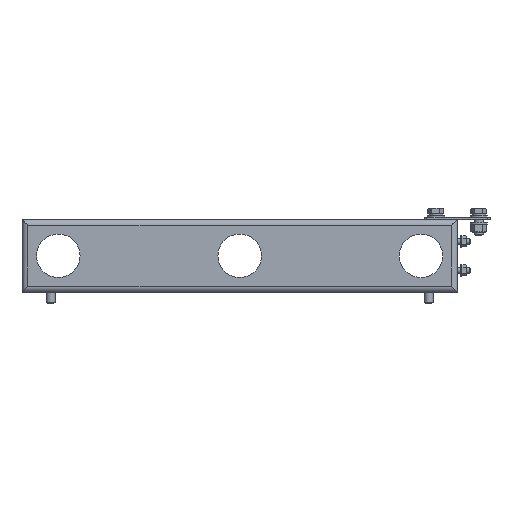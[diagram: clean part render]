
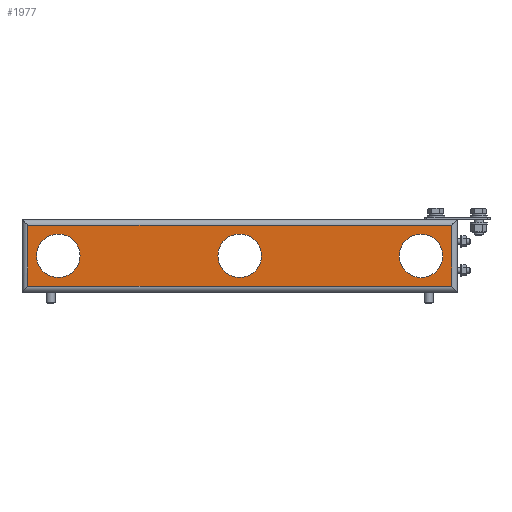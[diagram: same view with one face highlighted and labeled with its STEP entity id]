
A CAD part, left-side view. The second image highlights one B-rep face of the part: STEP entity #1977.
In plain terms, the highlighted planar face has unit normal (-1, 0, 0).
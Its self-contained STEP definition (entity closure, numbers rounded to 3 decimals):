
#1977=ADVANCED_FACE('',(#2300,#2302,#2304,#2306),#2308,.T.);
#2300=FACE_BOUND('',#2301,.T.);
#2301=EDGE_LOOP('',(#5654,#5655,#5656,#5657));
#2302=FACE_BOUND('',#2303,.T.);
#2303=EDGE_LOOP('',(#5658));
#2304=FACE_BOUND('',#2305,.T.);
#2305=EDGE_LOOP('',(#5659));
#2306=FACE_BOUND('',#2307,.T.);
#2307=EDGE_LOOP('',(#5660));
#2308=PLANE('',#2309);
#2309=AXIS2_PLACEMENT_3D('',#2310,#2311,#2312);
#2310=CARTESIAN_POINT('',(0.,300.,42.));
#2311=DIRECTION('',(-1.,0.,0.));
#2312=DIRECTION('',(0.,0.,-1.));
#5654=ORIENTED_EDGE('',*,*,#6258,.T.);
#5655=ORIENTED_EDGE('',*,*,#6259,.T.);
#5656=ORIENTED_EDGE('',*,*,#6248,.T.);
#5657=ORIENTED_EDGE('',*,*,#6257,.F.);
#5658=ORIENTED_EDGE('',*,*,#6260,.T.);
#5659=ORIENTED_EDGE('',*,*,#6261,.T.);
#5660=ORIENTED_EDGE('',*,*,#6262,.T.);
#6248=EDGE_CURVE('',#6554,#6552,#6555,.T.);
#6257=EDGE_CURVE('',#6568,#6552,#6570,.T.);
#6258=EDGE_CURVE('',#6568,#6571,#6572,.T.);
#6259=EDGE_CURVE('',#6571,#6554,#6573,.T.);
#6260=EDGE_CURVE('',#6574,#6574,#6575,.F.);
#6261=EDGE_CURVE('',#6576,#6576,#6577,.F.);
#6262=EDGE_CURVE('',#6578,#6578,#6579,.F.);
#6552=VERTEX_POINT('',#7074);
#6554=VERTEX_POINT('',#7079);
#6555=LINE('',#7080,#7081);
#6568=VERTEX_POINT('',#7112);
#6570=LINE('',#7117,#7118);
#6571=VERTEX_POINT('',#7120);
#6572=LINE('',#7121,#7122);
#6573=LINE('',#7124,#7125);
#6574=VERTEX_POINT('',#7127);
#6575=CIRCLE('',#7128,30.);
#6576=VERTEX_POINT('',#7132);
#6577=CIRCLE('',#7133,30.);
#6578=VERTEX_POINT('',#7137);
#6579=CIRCLE('',#7138,30.);
#7074=CARTESIAN_POINT('',(0.,-292.,42.));
#7079=CARTESIAN_POINT('',(0.,-292.,-42.));
#7080=CARTESIAN_POINT('',(0.,-292.,-42.));
#7081=VECTOR('',#7082,1.);
#7082=DIRECTION('',(0.,0.,1.));
#7112=CARTESIAN_POINT('',(0.,292.,42.));
#7117=CARTESIAN_POINT('',(0.,292.,42.));
#7118=VECTOR('',#7119,1.);
#7119=DIRECTION('',(0.,-1.,0.));
#7120=CARTESIAN_POINT('',(0.,292.,-42.));
#7121=CARTESIAN_POINT('',(0.,292.,42.));
#7122=VECTOR('',#7123,1.);
#7123=DIRECTION('',(0.,0.,-1.));
#7124=CARTESIAN_POINT('',(0.,292.,-42.));
#7125=VECTOR('',#7126,1.);
#7126=DIRECTION('',(0.,-1.,0.));
#7127=CARTESIAN_POINT('',(0.,-30.,0.));
#7128=AXIS2_PLACEMENT_3D('',#7129,#7130,#7131);
#7129=CARTESIAN_POINT('',(0.,0.,0.));
#7130=DIRECTION('',(-1.,0.,0.));
#7131=DIRECTION('',(0.,-1.,0.));
#7132=CARTESIAN_POINT('',(0.,-280.,0.));
#7133=AXIS2_PLACEMENT_3D('',#7134,#7135,#7136);
#7134=CARTESIAN_POINT('',(0.,-250.,0.));
#7135=DIRECTION('',(-1.,0.,0.));
#7136=DIRECTION('',(0.,-1.,0.));
#7137=CARTESIAN_POINT('',(0.,220.,0.));
#7138=AXIS2_PLACEMENT_3D('',#7139,#7140,#7141);
#7139=CARTESIAN_POINT('',(0.,250.,0.));
#7140=DIRECTION('',(-1.,0.,0.));
#7141=DIRECTION('',(0.,-1.,0.));
